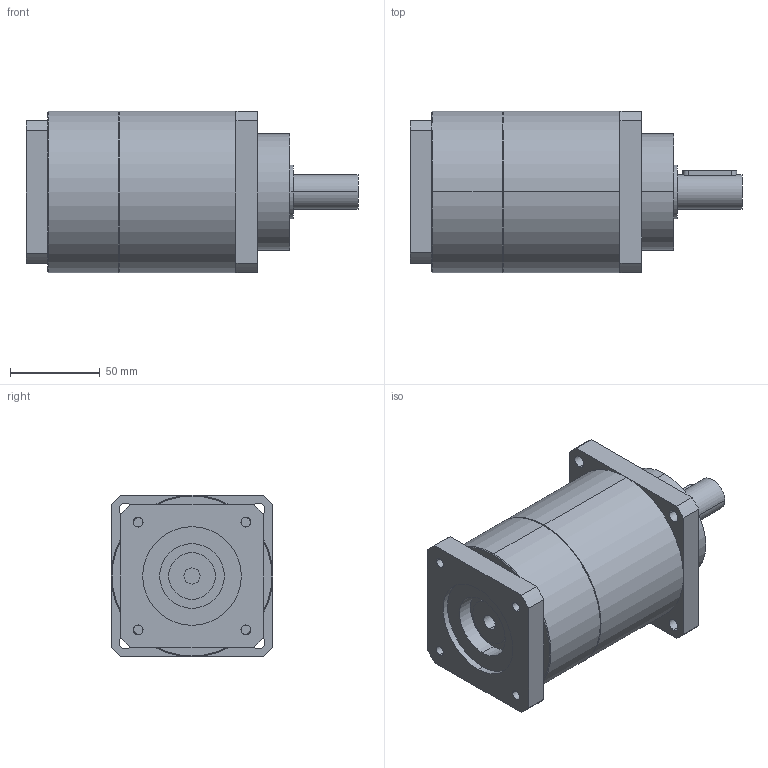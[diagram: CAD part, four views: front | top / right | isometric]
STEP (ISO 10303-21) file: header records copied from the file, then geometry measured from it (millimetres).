
FILE_DESCRIPTION(('CoCreate Modeling STEP Export'),'2;1');
FILE_NAME('GPT90_ig-9-12-16-20-25-28-35-40-50-70-100_19_B5T_9_P20.stp','2015-02-04T11:33:46',(''),(''),'CoCreate Modeling STEP processor for AP214 (Solid Model)','CoCreate Modeling 16.00C 25-Feb-2009 (C) Parametric Technology GmbH','');
FILE_SCHEMA(('AUTOMOTIVE_DESIGN { 1 0 10303 214 1 1 1 1 }'));
Length unit declared in the file: millimetre
Products named in the file (2): GPT90_ig-9-12-16-20-25-28-35-40-50-70-100_19_B5T_9_P20
Assembly tree (1 placements, depth 2):
  GPT90_ig-9-12-16-20-25-28-35-40-50-70-100_19_B5T_9_P20
    GPT90_ig-9-12-16-20-25-28-35-40-50-70-100_19_B5T_9_P20
Bounding box: 185 x 90 x 90 mm (x, y, z)
Volume: 891211.2 mm3; surface area: 65773.5 mm2
Topology: 1 solids, 1 shells, 88 faces, 237 edges, 156 vertices
Faces by surface type: cylinder 46, plane 38, cone 4
Entity records: 2783 total; most frequent: CARTESIAN_POINT 766, ORIENTED_EDGE 474, DIRECTION 338, EDGE_CURVE 237, VERTEX_POINT 156, AXIS2_PLACEMENT_3D 125, EDGE_LOOP 109, VECTOR 88
